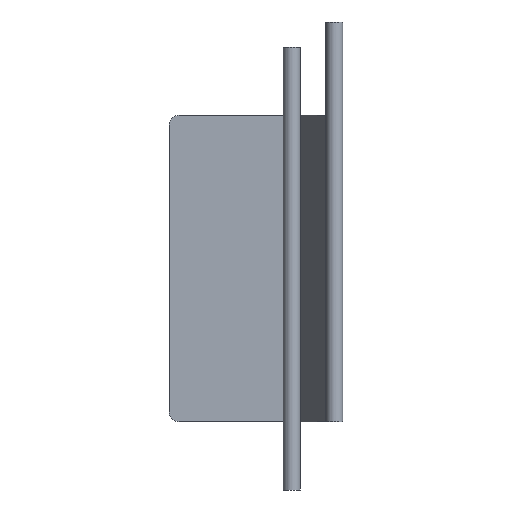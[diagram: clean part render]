
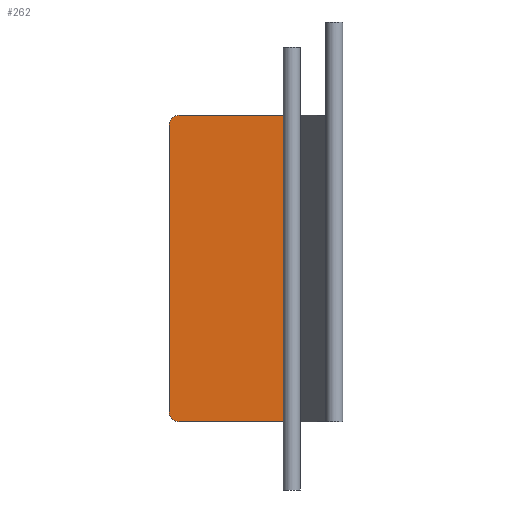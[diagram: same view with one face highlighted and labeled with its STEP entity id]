
A CAD part, front view. The second image highlights one B-rep face of the part: STEP entity #262.
In plain terms, the highlighted planar face has unit normal (0, -1, 0).
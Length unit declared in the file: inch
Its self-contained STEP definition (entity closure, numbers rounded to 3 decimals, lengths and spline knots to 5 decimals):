
#61 = CARTESIAN_POINT ( 'NONE',  ( -0.07217, 0., 4.5 ) ) ;
#63 = PLANE ( 'NONE',  #645 ) ;
#87 = CARTESIAN_POINT ( 'NONE',  ( -1.875, 0., 4.5 ) ) ;
#141 = EDGE_CURVE ( 'NONE', #503, #238, #183, .T. ) ;
#147 = CARTESIAN_POINT ( 'NONE',  ( -1.725, 0., 4.5 ) ) ;
#153 = LINE ( 'NONE', #87, #254 ) ;
#156 = CARTESIAN_POINT ( 'NONE',  ( -1.875, 0., 0. ) ) ;
#176 = AXIS2_PLACEMENT_3D ( 'NONE', #876, #580, #813 ) ;
#181 = ORIENTED_EDGE ( 'NONE', *, *, #327, .T. ) ;
#183 = LINE ( 'NONE', #156, #207 ) ;
#207 = VECTOR ( 'NONE', #911, 39.37008 ) ;
#212 = DIRECTION ( 'NONE',  ( 0., 0., 1. ) ) ;
#220 = CARTESIAN_POINT ( 'NONE',  ( -1.725, 0., 4.35 ) ) ;
#221 = CARTESIAN_POINT ( 'NONE',  ( -1.875, 0., 4.5 ) ) ;
#238 = VERTEX_POINT ( 'NONE', #745 ) ;
#244 = EDGE_CURVE ( 'NONE', #238, #934, #301, .T. ) ;
#252 = LINE ( 'NONE', #221, #360 ) ;
#254 = VECTOR ( 'NONE', #896, 39.37008 ) ;
#262 = ADVANCED_FACE ( 'NONE', ( #498 ), #63, .F. ) ;
#274 = ORIENTED_EDGE ( 'NONE', *, *, #244, .T. ) ;
#277 = VERTEX_POINT ( 'NONE', #408 ) ;
#296 = CIRCLE ( 'NONE', #176, 0.15 ) ;
#301 = LINE ( 'NONE', #61, #661 ) ;
#310 = VERTEX_POINT ( 'NONE', #147 ) ;
#315 = VERTEX_POINT ( 'NONE', #418 ) ;
#319 = ORIENTED_EDGE ( 'NONE', *, *, #383, .T. ) ;
#327 = EDGE_CURVE ( 'NONE', #310, #277, #530, .T. ) ;
#338 = EDGE_LOOP ( 'NONE', ( #319, #587, #744, #274, #690, #181 ) ) ;
#360 = VECTOR ( 'NONE', #702, 39.37008 ) ;
#372 = DIRECTION ( 'NONE',  ( 0., -1., 0. ) ) ;
#383 = EDGE_CURVE ( 'NONE', #277, #315, #252, .T. ) ;
#408 = CARTESIAN_POINT ( 'NONE',  ( -1.875, 0., 4.35 ) ) ;
#418 = CARTESIAN_POINT ( 'NONE',  ( -1.875, 0., 0.15 ) ) ;
#430 = EDGE_CURVE ( 'NONE', #315, #503, #296, .T. ) ;
#465 = CARTESIAN_POINT ( 'NONE',  ( -0.07217, 0., 4.5 ) ) ;
#489 = DIRECTION ( 'NONE',  ( 0., 0., 1. ) ) ;
#498 = FACE_OUTER_BOUND ( 'NONE', #338, .T. ) ;
#503 = VERTEX_POINT ( 'NONE', #518 ) ;
#518 = CARTESIAN_POINT ( 'NONE',  ( -1.725, 0., 0. ) ) ;
#530 = CIRCLE ( 'NONE', #654, 0.15 ) ;
#580 = DIRECTION ( 'NONE',  ( 0., -1., 0. ) ) ;
#587 = ORIENTED_EDGE ( 'NONE', *, *, #430, .T. ) ;
#645 = AXIS2_PLACEMENT_3D ( 'NONE', #980, #947, #489 ) ;
#654 = AXIS2_PLACEMENT_3D ( 'NONE', #220, #372, #212 ) ;
#661 = VECTOR ( 'NONE', #709, 39.37008 ) ;
#690 = ORIENTED_EDGE ( 'NONE', *, *, #882, .F. ) ;
#702 = DIRECTION ( 'NONE',  ( 0., 0., -1. ) ) ;
#709 = DIRECTION ( 'NONE',  ( 0., 0., 1. ) ) ;
#744 = ORIENTED_EDGE ( 'NONE', *, *, #141, .T. ) ;
#745 = CARTESIAN_POINT ( 'NONE',  ( -0.07217, 0., 0. ) ) ;
#813 = DIRECTION ( 'NONE',  ( 0., 0., 1. ) ) ;
#876 = CARTESIAN_POINT ( 'NONE',  ( -1.725, 0., 0.15 ) ) ;
#882 = EDGE_CURVE ( 'NONE', #310, #934, #153, .T. ) ;
#896 = DIRECTION ( 'NONE',  ( 1., 0., 0. ) ) ;
#911 = DIRECTION ( 'NONE',  ( 1., 0., 0. ) ) ;
#934 = VERTEX_POINT ( 'NONE', #465 ) ;
#947 = DIRECTION ( 'NONE',  ( 0., 1., 0. ) ) ;
#980 = CARTESIAN_POINT ( 'NONE',  ( -1.875, 0., 4.5 ) ) ;
